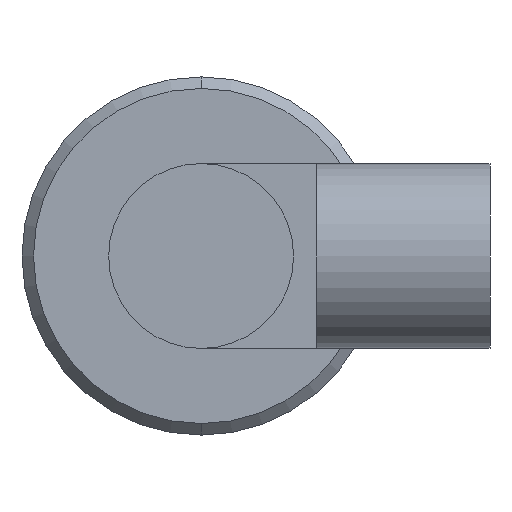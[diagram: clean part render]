
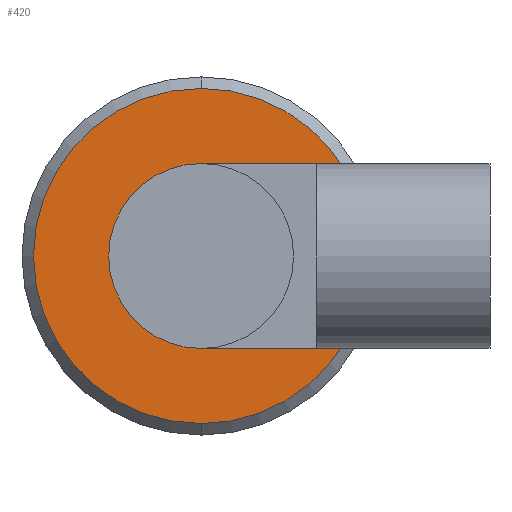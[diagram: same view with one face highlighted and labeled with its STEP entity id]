
A CAD part, left-side view. The second image highlights one B-rep face of the part: STEP entity #420.
In plain terms, the highlighted planar face has unit normal (-1, 0, 0).
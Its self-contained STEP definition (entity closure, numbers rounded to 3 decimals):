
#57 = FACE_BOUND ( 'NONE', #497, .T. ) ;
#103 = AXIS2_PLACEMENT_3D ( 'NONE', #431, #1252, #462 ) ;
#107 = VERTEX_POINT ( 'NONE', #148 ) ;
#119 = CIRCLE ( 'NONE', #484, 8. ) ;
#148 = CARTESIAN_POINT ( 'NONE',  ( 52.8, 0., -8. ) ) ;
#179 = EDGE_CURVE ( 'NONE', #911, #498, #1180, .T. ) ;
#218 = CARTESIAN_POINT ( 'NONE',  ( 52.8, 14.5, 0. ) ) ;
#237 = EDGE_CURVE ( 'NONE', #1094, #107, #119, .T. ) ;
#277 = CARTESIAN_POINT ( 'NONE',  ( 52.8, 0., 8. ) ) ;
#335 = PLANE ( 'NONE',  #1070 ) ;
#361 = FACE_OUTER_BOUND ( 'NONE', #1264, .T. ) ;
#420 = ADVANCED_FACE ( 'NONE', ( #57, #361 ), #335, .T. ) ;
#431 = CARTESIAN_POINT ( 'NONE',  ( 52.8, 0., 0. ) ) ;
#462 = DIRECTION ( 'NONE',  ( 0., 0., -1. ) ) ;
#484 = AXIS2_PLACEMENT_3D ( 'NONE', #1263, #536, #770 ) ;
#488 = CARTESIAN_POINT ( 'NONE',  ( 52.8, 0., 14.5 ) ) ;
#497 = EDGE_LOOP ( 'NONE', ( #1020, #569 ) ) ;
#498 = VERTEX_POINT ( 'NONE', #488 ) ;
#521 = DIRECTION ( 'NONE',  ( 1., 0., 0. ) ) ;
#536 = DIRECTION ( 'NONE',  ( 1., 0., 0. ) ) ;
#567 = DIRECTION ( 'NONE',  ( -1., 0., 0. ) ) ;
#569 = ORIENTED_EDGE ( 'NONE', *, *, #237, .T. ) ;
#758 = DIRECTION ( 'NONE',  ( 1., 0., 0. ) ) ;
#770 = DIRECTION ( 'NONE',  ( 0., 0., -1. ) ) ;
#795 = CIRCLE ( 'NONE', #103, 14.5 ) ;
#829 = ORIENTED_EDGE ( 'NONE', *, *, #1206, .F. ) ;
#870 = AXIS2_PLACEMENT_3D ( 'NONE', #1222, #521, #1338 ) ;
#911 = VERTEX_POINT ( 'NONE', #1155 ) ;
#1020 = ORIENTED_EDGE ( 'NONE', *, *, #1351, .T. ) ;
#1050 = AXIS2_PLACEMENT_3D ( 'NONE', #1462, #758, #1089 ) ;
#1070 = AXIS2_PLACEMENT_3D ( 'NONE', #218, #567, #1388 ) ;
#1089 = DIRECTION ( 'NONE',  ( 0., 0., -1. ) ) ;
#1094 = VERTEX_POINT ( 'NONE', #277 ) ;
#1155 = CARTESIAN_POINT ( 'NONE',  ( 52.8, 0., -14.5 ) ) ;
#1180 = CIRCLE ( 'NONE', #1050, 14.5 ) ;
#1191 = CIRCLE ( 'NONE', #870, 8. ) ;
#1206 = EDGE_CURVE ( 'NONE', #498, #911, #795, .T. ) ;
#1222 = CARTESIAN_POINT ( 'NONE',  ( 52.8, 0., 0. ) ) ;
#1252 = DIRECTION ( 'NONE',  ( 1., 0., 0. ) ) ;
#1255 = ORIENTED_EDGE ( 'NONE', *, *, #179, .F. ) ;
#1263 = CARTESIAN_POINT ( 'NONE',  ( 52.8, 0., 0. ) ) ;
#1264 = EDGE_LOOP ( 'NONE', ( #1255, #829 ) ) ;
#1338 = DIRECTION ( 'NONE',  ( 0., 0., -1. ) ) ;
#1351 = EDGE_CURVE ( 'NONE', #107, #1094, #1191, .T. ) ;
#1388 = DIRECTION ( 'NONE',  ( 0., 0., 1. ) ) ;
#1462 = CARTESIAN_POINT ( 'NONE',  ( 52.8, 0., 0. ) ) ;
